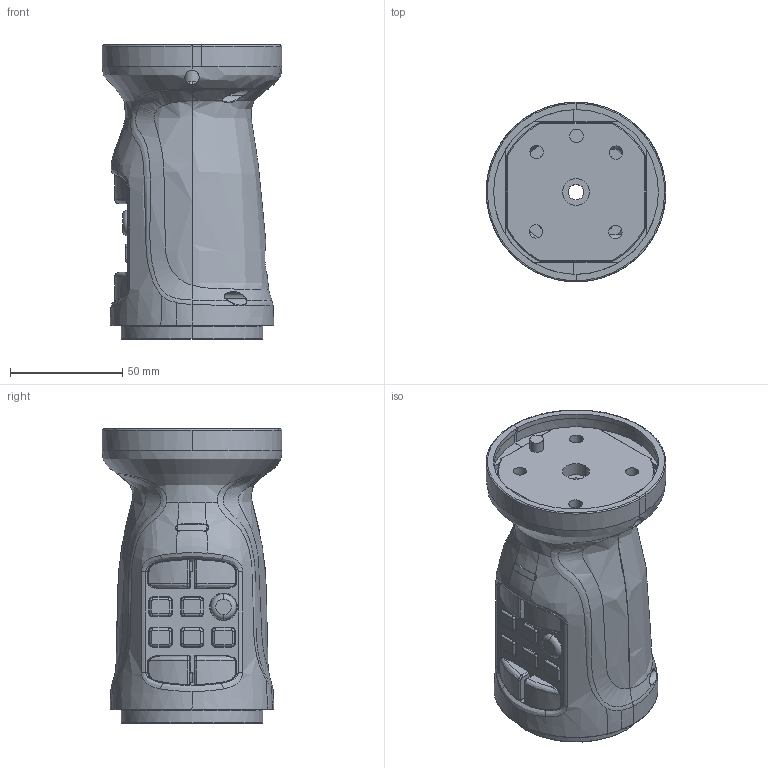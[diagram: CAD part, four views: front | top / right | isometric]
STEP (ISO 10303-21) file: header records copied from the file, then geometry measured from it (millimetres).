
FILE_DESCRIPTION (( 'STEP AP203' ), '1' );
FILE_NAME ('智能焊接工装站-焊接手柄.STEP', '2024-11-07T06:29:04', ( '' ), ( '' ), 'SwSTEP 2.0', 'SolidWorks 2018', '' );
FILE_SCHEMA (( 'CONFIG_CONTROL_DESIGN' ));
Products named in the file (1): 智能焊接工装站-焊接手柄
Bounding box: 80 x 80 x 131 mm (x, y, z)
Surface area: 54790.2 mm2 (no closed solid volume)
Topology: 0 solids, 18 shells, 554 faces, 1917 edges, 1352 vertices
Faces by surface type: cylinder 189, bspline 166, plane 111, torus 54, cone 34
Entity records: 60558 total; most frequent: CARTESIAN_POINT 46076, ORIENTED_EDGE 3063, DIRECTION 2438, EDGE_CURVE 1915, VERTEX_POINT 1352, AXIS2_PLACEMENT_3D 934, B_SPLINE_CURVE_WITH_KNOTS 792, EDGE_LOOP 599
